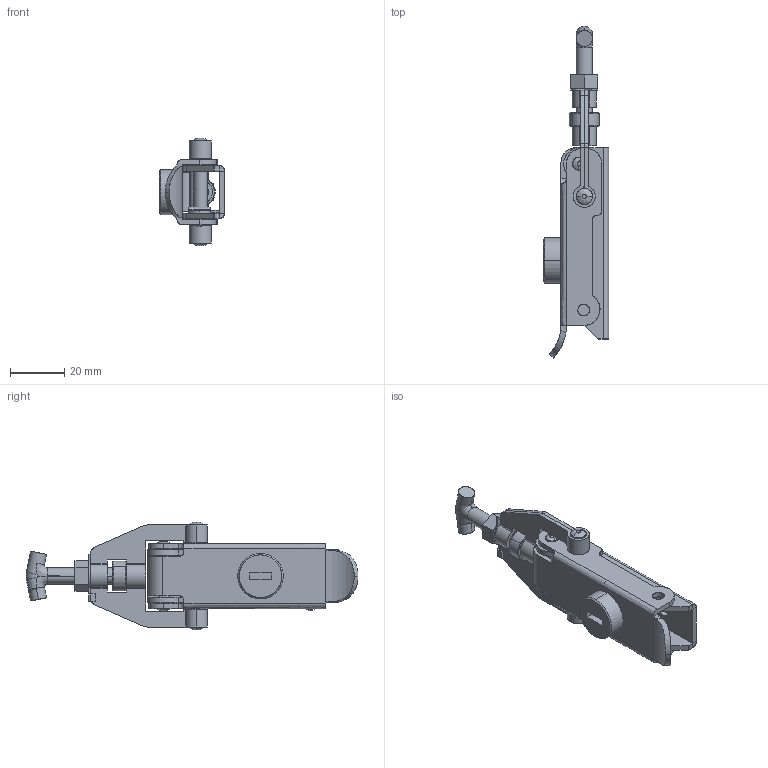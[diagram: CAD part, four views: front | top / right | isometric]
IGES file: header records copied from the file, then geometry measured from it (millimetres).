
Start section: SolidWorks IGES file using analytic representation for surfaces
Global section: file name: C:\Users\cbrechard\Desktop\GR 1055.IGS; native system: SolidWorks 2017; preprocessor: SolidWorks 2017; author: cbrechard; date: 190909.150145; units: millimetre
Bounding box: 24.1 x 122.3 x 39.6 mm (x, y, z)
Surface area: 21592.9 mm2 (no closed solid volume)
Topology: 0 solids, 0 shells, 377 faces, 5006 edges, 4975 vertices
Faces by surface type: revolution 209, bspline 168
